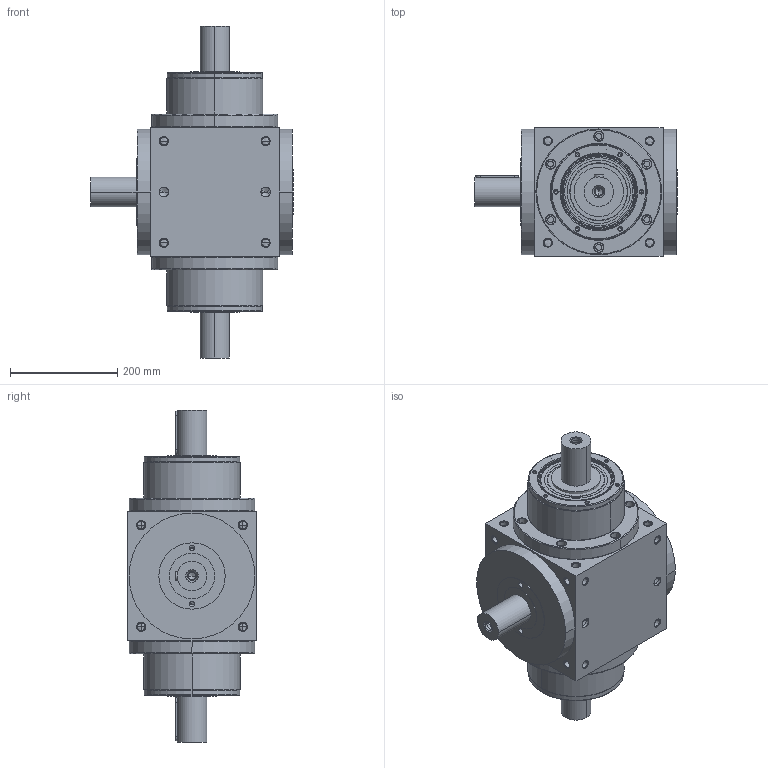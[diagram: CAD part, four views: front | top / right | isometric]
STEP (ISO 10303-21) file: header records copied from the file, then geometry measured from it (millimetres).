
FILE_DESCRIPTION((''),'2;1');
FILE_NAME('AT240LM-1_ASM','2010-02-09T',('d00080'),(''),'PRO/ENGINEER BY PARAMETRIC TECHNOLOGY CORPORATION, 2008170','PRO/ENGINEER BY PARAMETRIC TECHNOLOGY CORPORATION, 2008170','');
FILE_SCHEMA(('CONFIG_CONTROL_DESIGN'));
Length unit declared in the file: millimetre
Products named in the file (4): ATLM-HOUSING-1-9; P1801900001; 22400071009; AT240LM-1_ASM
Assembly tree (5 placements, depth 2):
  AT240LM-1_ASM
    ATLM-HOUSING-1-9
    P1801900001  x2
    22400071009  x2
Bounding box: 379 x 240 x 620 mm (x, y, z)
Volume: 20821833.6 mm3; surface area: 1014771.1 mm2
Topology: 7 solids, 46 shells, 847 faces, 2025 edges, 1197 vertices
Faces by surface type: cylinder 370, cone 296, plane 111, torus 70
Entity records: 18406 total; most frequent: CARTESIAN_POINT 3860, DIRECTION 3267, ORIENTED_EDGE 2750, EDGE_CURVE 1441, AXIS2_PLACEMENT_3D 1369, VERTEX_POINT 902, CIRCLE 740, EDGE_LOOP 733
